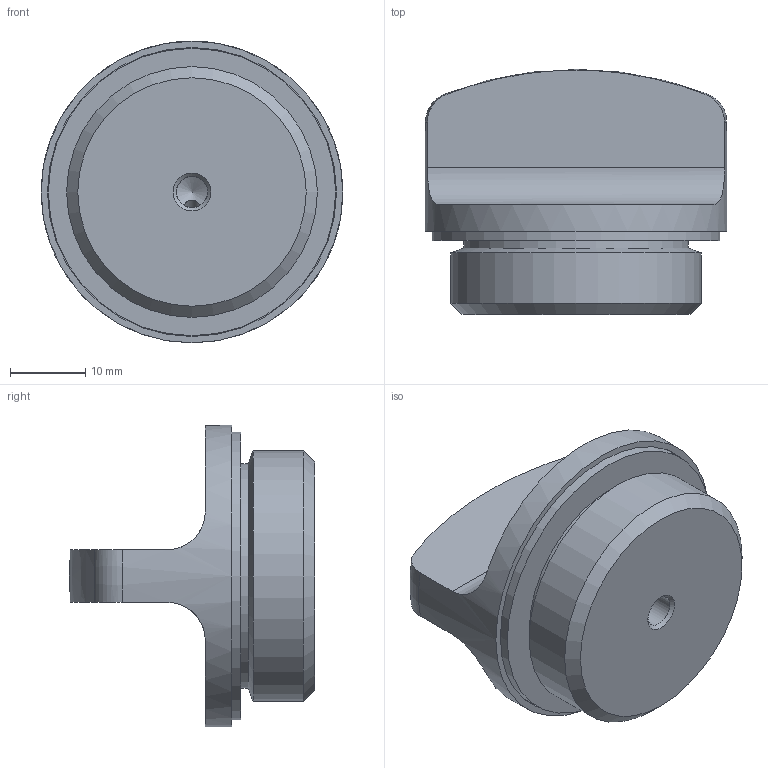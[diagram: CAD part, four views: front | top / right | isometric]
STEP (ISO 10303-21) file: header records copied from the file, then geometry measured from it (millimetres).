
FILE_DESCRIPTION( ( 'STEP AP203' ), '1' );
FILE_NAME( 'C:/Temp/Ganter_Step_05_03_2020/data/3_5/gn441/Threaded plug GN 441-40-G1-2-SW.stp', '2020-03-12T13:34:56', ( 'License CC BY-ND 4.0' ), ( 'CADENAS' ), ' ', 'PARTsolutions', ' ' );
FILE_SCHEMA( ( 'CONFIG_CONTROL_DESIGN' ) );
Length unit declared in the file: millimetre
Products named in the file (1): _Threaded plug GN 441-40-G1-2-SW
Bounding box: 40 x 32.5 x 40 mm (x, y, z)
Volume: 18682.4 mm3; surface area: 6527.7 mm2
Topology: 1 solids, 2 shells, 32 faces, 74 edges, 48 vertices
Faces by surface type: cylinder 13, plane 11, cone 5, torus 2, sphere 1
Full cylindrical faces by diameter (mm): 2 x1, 4.134 x1, 29.8 x2, 33.249 x1, 33.4 x1, 33.5 x1, 38.1 x1, 38.3 x1, 40 x1
Entity records: 1005 total; most frequent: CARTESIAN_POINT 330, DIRECTION 132, ORIENTED_EDGE 102, AXIS2_PLACEMENT_3D 62, EDGE_LOOP 54, EDGE_CURVE 51, VERTEX_POINT 43, FACE_OUTER_BOUND 42
